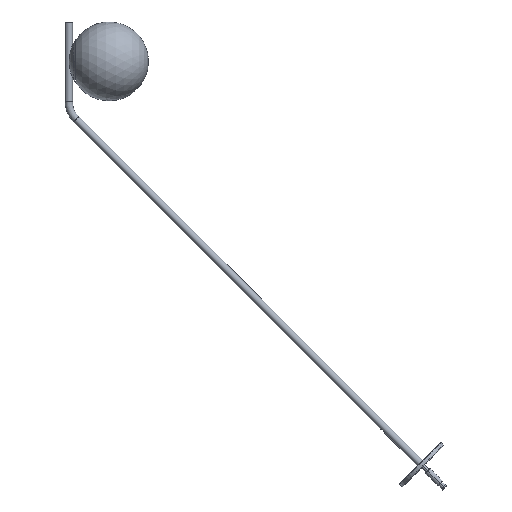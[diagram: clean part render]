
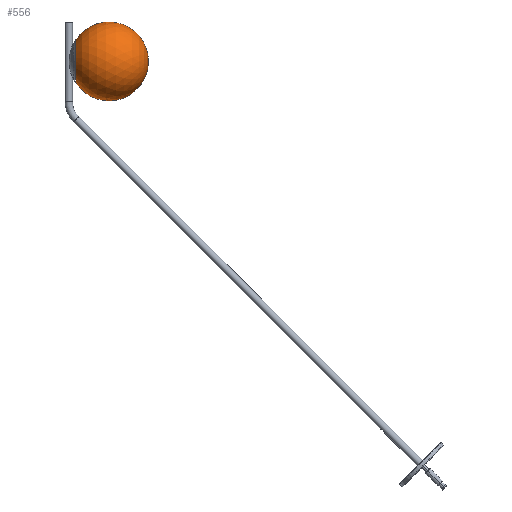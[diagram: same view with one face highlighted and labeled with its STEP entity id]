
A CAD part, left-side view. The second image highlights one B-rep face of the part: STEP entity #556.
In plain terms, the highlighted spherical face has radius 80 mm.
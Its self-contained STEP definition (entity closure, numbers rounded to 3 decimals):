
#517=CARTESIAN_POINT('',(0.,44.739,44.));
#518=DIRECTION('',(0.,1.,0.));
#519=DIRECTION('',(0.,0.,-1.));
#520=AXIS2_PLACEMENT_3D('',#517,#518,#519);
#522=CARTESIAN_POINT('',(0.,-22.691,44.));
#523=DIRECTION('',(-1.,0.,0.));
#524=DIRECTION('',(0.,0.843,-0.538));
#525=AXIS2_PLACEMENT_3D('',#522,#523,#524);
#527=CARTESIAN_POINT('',(0.,-22.691,44.));
#528=DIRECTION('',(1.,0.,0.));
#529=DIRECTION('',(0.,0.843,0.538));
#530=AXIS2_PLACEMENT_3D('',#527,#528,#529);
#537=CARTESIAN_POINT('',(0.,44.739,0.951));
#538=CARTESIAN_POINT('',(0.,-102.691,44.));
#539=VERTEX_POINT('',#537);
#540=VERTEX_POINT('',#538);
#541=CARTESIAN_POINT('',(0.,44.739,87.049));
#542=VERTEX_POINT('',#541);
#543=CARTESIAN_POINT('',(0.,-22.691,44.));
#544=DIRECTION('',(0.,1.,0.));
#545=DIRECTION('',(0.,0.,1.));
#546=AXIS2_PLACEMENT_3D('',#543,#544,#545);
#547=SPHERICAL_SURFACE('',#546,80.);
#549=ORIENTED_EDGE('',*,*,#548,.F.);
#551=ORIENTED_EDGE('',*,*,#550,.T.);
#553=ORIENTED_EDGE('',*,*,#552,.T.);
#554=EDGE_LOOP('',(#549,#551,#553));
#555=FACE_OUTER_BOUND('',#554,.F.);
#556=ADVANCED_FACE('',(#555),#547,.T.);
#521=CIRCLE('',#520,43.049);
#526=CIRCLE('',#525,80.);
#531=CIRCLE('',#530,80.);
#548=EDGE_CURVE('',#539,#540,#526,.T.);
#550=EDGE_CURVE('',#539,#542,#521,.T.);
#552=EDGE_CURVE('',#542,#540,#531,.T.);
